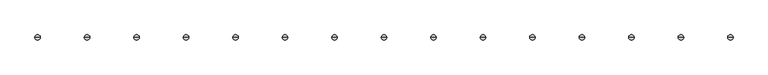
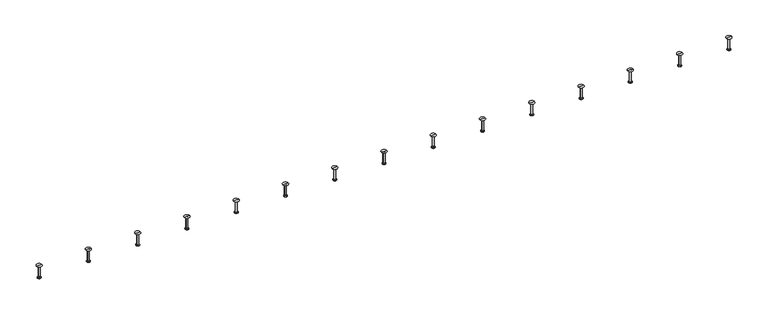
"""IFC4 building model written with IfcOpenShell, lengths in millimetres: fastener geometry, JTA-K JORDAHL® AnchorChannels : JTA-K L=6000 mm."""

from ifc_helpers import new_model, si_unit, frame, origin, place, context, project, spatial, polyline, circle_curve, source, transform, mapped, element, save
from ifc_brep_helpers import plane_surface, cylinder_surface, revolved_surface, advanced_brep


def fastener_3c34351d(model_context):
    return source(origin(), model_context, "Body", "AdvancedBrep", [
        advanced_brep(
        [(3991.6666667, 0.0, -25.0), (3978.1666667, 0.0, -25.0), (4005.1666667, 0.0, -25.0), (3983.1666667, 0.0, -90.0), (3991.6666667, 0.0, -90.0), (4000.1666667, 0.0, -90.0), (3983.1666667, 0.0, -88.0), (4000.1666667, 0.0, -88.0), (3987.1666667, 0.0, -85.6905989), (3996.1666667, 0.0, -85.6905989), (3987.1666667, 0.0, -27.5), (3996.1666667, 0.0, -27.5)],
        [
            (0, 1),
            (1, 2, circle_curve(frame((3991.6666667, 0.0, -25.0), z_axis=(0.0, 0.0, 1.0), x_axis=(1.0, 0.0, 0.0)), 13.5)),
            (2, 0),
            (2, 1, circle_curve(frame((3991.6666667, 0.0, -25.0), z_axis=(0.0, 0.0, 1.0), x_axis=(1.0, 0.0, 0.0)), 13.5)),
            (3, 4),
            (4, 5),
            (5, 3, circle_curve(frame((3991.6666667, 0.0, -90.0), z_axis=(0.0, 0.0, -1.0), x_axis=(1.0, 0.0, 0.0)), 8.5)),
            (3, 5, circle_curve(frame((3991.6666667, 0.0, -90.0), z_axis=(0.0, 0.0, -1.0), x_axis=(1.0, 0.0, 0.0)), 8.5)),
            (6, 3),
            (5, 7),
            (7, 6, circle_curve(frame((3991.6666667, 0.0, -88.0), z_axis=(0.0, 0.0, -1.0), x_axis=(1.0, 0.0, 0.0)), 8.5)),
            (6, 7, circle_curve(frame((3991.6666667, 0.0, -88.0), z_axis=(0.0, 0.0, -1.0), x_axis=(1.0, 0.0, 0.0)), 8.5)),
            (8, 6),
            (7, 9),
            (9, 8, circle_curve(frame((3991.6666667, 0.0, -85.6905989), z_axis=(0.0, 0.0, -1.0), x_axis=(1.0, 0.0, 0.0)), 4.5)),
            (8, 9, circle_curve(frame((3991.6666667, 0.0, -85.6905989), z_axis=(0.0, 0.0, -1.0), x_axis=(1.0, 0.0, 0.0)), 4.5)),
            (10, 8),
            (9, 11),
            (11, 10, circle_curve(frame((3991.6666667, 0.0, -27.5), z_axis=(0.0, 0.0, -1.0), x_axis=(1.0, 0.0, 0.0)), 4.5)),
            (10, 11, circle_curve(frame((3991.6666667, 0.0, -27.5), z_axis=(0.0, 0.0, -1.0), x_axis=(1.0, 0.0, 0.0)), 4.5)),
            (1, 10),
            (11, 2),
        ],
        [
            plane_surface(frame((3991.6666667, 0.0, -25.0), z_axis=(0.0, 0.0, 1.0), x_axis=(1.0, 0.0, 0.0))),
            plane_surface(frame((3991.6666667, 0.0, -90.0), z_axis=(0.0, 0.0, -1.0), x_axis=(1.0, 0.0, 0.0))),
            cylinder_surface(frame((3991.6666667, 0.0, 2279.3150031), z_axis=(0.0, 0.0, 1.0), x_axis=(1.0, 0.0, 0.0)), 8.5),
            revolved_surface(polyline([(4000.1666667, 0.0, -88.0), (3996.1666667, 0.0, -85.6905989)]), (3991.6666667, 0.0, 2279.3150031), (0.0, 0.0, 1.0)),
            cylinder_surface(frame((3991.6666667, 0.0, 2279.3150031), z_axis=(0.0, 0.0, 1.0), x_axis=(1.0, 0.0, 0.0)), 4.5),
            revolved_surface(polyline([(3996.1666667, 0.0, -27.5), (4005.1666667, 0.0, -25.0)]), (3991.6666667, 0.0, 2279.3150031), (0.0, 0.0, 1.0)),
        ],
        [
            (0, [[1, 2, 3]]),
            (0, [[-3, 4, -1]]),
            (1, [[5, 6, 7]]),
            (1, [[-6, -5, 8]]),
            (2, [[9, -7, 10, 11]]),
            (2, [[-10, -8, -9, 12]]),
            (3, [[13, -11, 14, 15]]),
            (3, [[-14, -12, -13, 16]]),
            (4, [[17, -15, 18, 19]]),
            (4, [[-18, -16, -17, 20]]),
            (5, [[21, -19, 22, -2]]),
            (5, [[-22, -20, -21, -4]]),
        ],
    ),
        advanced_brep(
        [(3743.75, 0.0, -25.0), (3730.25, 0.0, -25.0), (3757.25, 0.0, -25.0), (3735.25, 0.0, -90.0), (3743.75, 0.0, -90.0), (3752.25, 0.0, -90.0), (3735.25, 0.0, -88.0), (3752.25, 0.0, -88.0), (3739.25, 0.0, -85.6905989), (3748.25, 0.0, -85.6905989), (3739.25, 0.0, -27.5), (3748.25, 0.0, -27.5)],
        [
            (0, 1),
            (1, 2, circle_curve(frame((3743.75, 0.0, -25.0), z_axis=(0.0, 0.0, 1.0), x_axis=(1.0, 0.0, 0.0)), 13.5)),
            (2, 0),
            (2, 1, circle_curve(frame((3743.75, 0.0, -25.0), z_axis=(0.0, 0.0, 1.0), x_axis=(1.0, 0.0, 0.0)), 13.5)),
            (3, 4),
            (4, 5),
            (5, 3, circle_curve(frame((3743.75, 0.0, -90.0), z_axis=(0.0, 0.0, -1.0), x_axis=(1.0, 0.0, 0.0)), 8.5)),
            (3, 5, circle_curve(frame((3743.75, 0.0, -90.0), z_axis=(0.0, 0.0, -1.0), x_axis=(1.0, 0.0, 0.0)), 8.5)),
            (6, 3),
            (5, 7),
            (7, 6, circle_curve(frame((3743.75, 0.0, -88.0), z_axis=(0.0, 0.0, -1.0), x_axis=(1.0, 0.0, 0.0)), 8.5)),
            (6, 7, circle_curve(frame((3743.75, 0.0, -88.0), z_axis=(0.0, 0.0, -1.0), x_axis=(1.0, 0.0, 0.0)), 8.5)),
            (8, 6),
            (7, 9),
            (9, 8, circle_curve(frame((3743.75, 0.0, -85.6905989), z_axis=(0.0, 0.0, -1.0), x_axis=(1.0, 0.0, 0.0)), 4.5)),
            (8, 9, circle_curve(frame((3743.75, 0.0, -85.6905989), z_axis=(0.0, 0.0, -1.0), x_axis=(1.0, 0.0, 0.0)), 4.5)),
            (10, 8),
            (9, 11),
            (11, 10, circle_curve(frame((3743.75, 0.0, -27.5), z_axis=(0.0, 0.0, -1.0), x_axis=(1.0, 0.0, 0.0)), 4.5)),
            (10, 11, circle_curve(frame((3743.75, 0.0, -27.5), z_axis=(0.0, 0.0, -1.0), x_axis=(1.0, 0.0, 0.0)), 4.5)),
            (1, 10),
            (11, 2),
        ],
        [
            plane_surface(frame((3743.75, 0.0, -25.0), z_axis=(0.0, 0.0, 1.0), x_axis=(1.0, 0.0, 0.0))),
            plane_surface(frame((3743.75, 0.0, -90.0), z_axis=(0.0, 0.0, -1.0), x_axis=(1.0, 0.0, 0.0))),
            cylinder_surface(frame((3743.75, 0.0, 2279.3150031), z_axis=(0.0, 0.0, 1.0), x_axis=(1.0, 0.0, 0.0)), 8.5),
            revolved_surface(polyline([(3752.25, 0.0, -88.0), (3748.25, 0.0, -85.6905989)]), (3743.75, 0.0, 2279.3150031), (0.0, 0.0, 1.0)),
            cylinder_surface(frame((3743.75, 0.0, 2279.3150031), z_axis=(0.0, 0.0, 1.0), x_axis=(1.0, 0.0, 0.0)), 4.5),
            revolved_surface(polyline([(3748.25, 0.0, -27.5), (3757.25, 0.0, -25.0)]), (3743.75, 0.0, 2279.3150031), (0.0, 0.0, 1.0)),
        ],
        [
            (0, [[1, 2, 3]]),
            (0, [[-3, 4, -1]]),
            (1, [[5, 6, 7]]),
            (1, [[-6, -5, 8]]),
            (2, [[9, -7, 10, 11]]),
            (2, [[-10, -8, -9, 12]]),
            (3, [[13, -11, 14, 15]]),
            (3, [[-14, -12, -13, 16]]),
            (4, [[17, -15, 18, 19]]),
            (4, [[-18, -16, -17, 20]]),
            (5, [[21, -19, 22, -2]]),
            (5, [[-22, -20, -21, -4]]),
        ],
    ),
        advanced_brep(
        [(3495.8333333, 0.0, -25.0), (3482.3333333, 0.0, -25.0), (3509.3333333, 0.0, -25.0), (3487.3333333, 0.0, -90.0), (3495.8333333, 0.0, -90.0), (3504.3333333, 0.0, -90.0), (3487.3333333, 0.0, -88.0), (3504.3333333, 0.0, -88.0), (3491.3333333, 0.0, -85.6905989), (3500.3333333, 0.0, -85.6905989), (3491.3333333, 0.0, -27.5), (3500.3333333, 0.0, -27.5)],
        [
            (0, 1),
            (1, 2, circle_curve(frame((3495.8333333, 0.0, -25.0), z_axis=(0.0, 0.0, 1.0), x_axis=(1.0, 0.0, 0.0)), 13.5)),
            (2, 0),
            (2, 1, circle_curve(frame((3495.8333333, 0.0, -25.0), z_axis=(0.0, 0.0, 1.0), x_axis=(1.0, 0.0, 0.0)), 13.5)),
            (3, 4),
            (4, 5),
            (5, 3, circle_curve(frame((3495.8333333, 0.0, -90.0), z_axis=(0.0, 0.0, -1.0), x_axis=(1.0, 0.0, 0.0)), 8.5)),
            (3, 5, circle_curve(frame((3495.8333333, 0.0, -90.0), z_axis=(0.0, 0.0, -1.0), x_axis=(1.0, 0.0, 0.0)), 8.5)),
            (6, 3),
            (5, 7),
            (7, 6, circle_curve(frame((3495.8333333, 0.0, -88.0), z_axis=(0.0, 0.0, -1.0), x_axis=(1.0, 0.0, 0.0)), 8.5)),
            (6, 7, circle_curve(frame((3495.8333333, 0.0, -88.0), z_axis=(0.0, 0.0, -1.0), x_axis=(1.0, 0.0, 0.0)), 8.5)),
            (8, 6),
            (7, 9),
            (9, 8, circle_curve(frame((3495.8333333, 0.0, -85.6905989), z_axis=(0.0, 0.0, -1.0), x_axis=(1.0, 0.0, 0.0)), 4.5)),
            (8, 9, circle_curve(frame((3495.8333333, 0.0, -85.6905989), z_axis=(0.0, 0.0, -1.0), x_axis=(1.0, 0.0, 0.0)), 4.5)),
            (10, 8),
            (9, 11),
            (11, 10, circle_curve(frame((3495.8333333, 0.0, -27.5), z_axis=(0.0, 0.0, -1.0), x_axis=(1.0, 0.0, 0.0)), 4.5)),
            (10, 11, circle_curve(frame((3495.8333333, 0.0, -27.5), z_axis=(0.0, 0.0, -1.0), x_axis=(1.0, 0.0, 0.0)), 4.5)),
            (1, 10),
            (11, 2),
        ],
        [
            plane_surface(frame((3495.8333333, 0.0, -25.0), z_axis=(0.0, 0.0, 1.0), x_axis=(1.0, 0.0, 0.0))),
            plane_surface(frame((3495.8333333, 0.0, -90.0), z_axis=(0.0, 0.0, -1.0), x_axis=(1.0, 0.0, 0.0))),
            cylinder_surface(frame((3495.8333333, 0.0, 2279.3150031), z_axis=(0.0, 0.0, 1.0), x_axis=(1.0, 0.0, 0.0)), 8.5),
            revolved_surface(polyline([(3504.3333333, 0.0, -88.0), (3500.3333333, 0.0, -85.6905989)]), (3495.8333333, 0.0, 2279.3150031), (0.0, 0.0, 1.0)),
            cylinder_surface(frame((3495.8333333, 0.0, 2279.3150031), z_axis=(0.0, 0.0, 1.0), x_axis=(1.0, 0.0, 0.0)), 4.5),
            revolved_surface(polyline([(3500.3333333, 0.0, -27.5), (3509.3333333, 0.0, -25.0)]), (3495.8333333, 0.0, 2279.3150031), (0.0, 0.0, 1.0)),
        ],
        [
            (0, [[1, 2, 3]]),
            (0, [[-3, 4, -1]]),
            (1, [[5, 6, 7]]),
            (1, [[-6, -5, 8]]),
            (2, [[9, -7, 10, 11]]),
            (2, [[-10, -8, -9, 12]]),
            (3, [[13, -11, 14, 15]]),
            (3, [[-14, -12, -13, 16]]),
            (4, [[17, -15, 18, 19]]),
            (4, [[-18, -16, -17, 20]]),
            (5, [[21, -19, 22, -2]]),
            (5, [[-22, -20, -21, -4]]),
        ],
    ),
        advanced_brep(
        [(3247.9166667, 0.0, -25.0), (3234.4166667, 0.0, -25.0), (3261.4166667, 0.0, -25.0), (3239.4166667, 0.0, -90.0), (3247.9166667, 0.0, -90.0), (3256.4166667, 0.0, -90.0), (3239.4166667, 0.0, -88.0), (3256.4166667, 0.0, -88.0), (3243.4166667, 0.0, -85.6905989), (3252.4166667, 0.0, -85.6905989), (3243.4166667, 0.0, -27.5), (3252.4166667, 0.0, -27.5)],
        [
            (0, 1),
            (1, 2, circle_curve(frame((3247.9166667, 0.0, -25.0), z_axis=(0.0, 0.0, 1.0), x_axis=(1.0, 0.0, 0.0)), 13.5)),
            (2, 0),
            (2, 1, circle_curve(frame((3247.9166667, 0.0, -25.0), z_axis=(0.0, 0.0, 1.0), x_axis=(1.0, 0.0, 0.0)), 13.5)),
            (3, 4),
            (4, 5),
            (5, 3, circle_curve(frame((3247.9166667, 0.0, -90.0), z_axis=(0.0, 0.0, -1.0), x_axis=(1.0, 0.0, 0.0)), 8.5)),
            (3, 5, circle_curve(frame((3247.9166667, 0.0, -90.0), z_axis=(0.0, 0.0, -1.0), x_axis=(1.0, 0.0, 0.0)), 8.5)),
            (6, 3),
            (5, 7),
            (7, 6, circle_curve(frame((3247.9166667, 0.0, -88.0), z_axis=(0.0, 0.0, -1.0), x_axis=(1.0, 0.0, 0.0)), 8.5)),
            (6, 7, circle_curve(frame((3247.9166667, 0.0, -88.0), z_axis=(0.0, 0.0, -1.0), x_axis=(1.0, 0.0, 0.0)), 8.5)),
            (8, 6),
            (7, 9),
            (9, 8, circle_curve(frame((3247.9166667, 0.0, -85.6905989), z_axis=(0.0, 0.0, -1.0), x_axis=(1.0, 0.0, 0.0)), 4.5)),
            (8, 9, circle_curve(frame((3247.9166667, 0.0, -85.6905989), z_axis=(0.0, 0.0, -1.0), x_axis=(1.0, 0.0, 0.0)), 4.5)),
            (10, 8),
            (9, 11),
            (11, 10, circle_curve(frame((3247.9166667, 0.0, -27.5), z_axis=(0.0, 0.0, -1.0), x_axis=(1.0, 0.0, 0.0)), 4.5)),
            (10, 11, circle_curve(frame((3247.9166667, 0.0, -27.5), z_axis=(0.0, 0.0, -1.0), x_axis=(1.0, 0.0, 0.0)), 4.5)),
            (1, 10),
            (11, 2),
        ],
        [
            plane_surface(frame((3247.9166667, 0.0, -25.0), z_axis=(0.0, 0.0, 1.0), x_axis=(1.0, 0.0, 0.0))),
            plane_surface(frame((3247.9166667, 0.0, -90.0), z_axis=(0.0, 0.0, -1.0), x_axis=(1.0, 0.0, 0.0))),
            cylinder_surface(frame((3247.9166667, 0.0, 2279.3150031), z_axis=(0.0, 0.0, 1.0), x_axis=(1.0, 0.0, 0.0)), 8.5),
            revolved_surface(polyline([(3256.4166667, 0.0, -88.0), (3252.4166667, 0.0, -85.6905989)]), (3247.9166667, 0.0, 2279.3150031), (0.0, 0.0, 1.0)),
            cylinder_surface(frame((3247.9166667, 0.0, 2279.3150031), z_axis=(0.0, 0.0, 1.0), x_axis=(1.0, 0.0, 0.0)), 4.5),
            revolved_surface(polyline([(3252.4166667, 0.0, -27.5), (3261.4166667, 0.0, -25.0)]), (3247.9166667, 0.0, 2279.3150031), (0.0, 0.0, 1.0)),
        ],
        [
            (0, [[1, 2, 3]]),
            (0, [[-3, 4, -1]]),
            (1, [[5, 6, 7]]),
            (1, [[-6, -5, 8]]),
            (2, [[9, -7, 10, 11]]),
            (2, [[-10, -8, -9, 12]]),
            (3, [[13, -11, 14, 15]]),
            (3, [[-14, -12, -13, 16]]),
            (4, [[17, -15, 18, 19]]),
            (4, [[-18, -16, -17, 20]]),
            (5, [[21, -19, 22, -2]]),
            (5, [[-22, -20, -21, -4]]),
        ],
    ),
        advanced_brep(
        [(3000.0, 0.0, -25.0), (2986.5, 0.0, -25.0), (3013.5, 0.0, -25.0), (2991.5, 0.0, -90.0), (3000.0, 0.0, -90.0), (3008.5, 0.0, -90.0), (2991.5, 0.0, -88.0), (3008.5, 0.0, -88.0), (2995.5, 0.0, -85.6905989), (3004.5, 0.0, -85.6905989), (2995.5, 0.0, -27.5), (3004.5, 0.0, -27.5)],
        [
            (0, 1),
            (1, 2, circle_curve(frame((3000.0, 0.0, -25.0), z_axis=(0.0, 0.0, 1.0), x_axis=(1.0, 0.0, 0.0)), 13.5)),
            (2, 0),
            (2, 1, circle_curve(frame((3000.0, 0.0, -25.0), z_axis=(0.0, 0.0, 1.0), x_axis=(1.0, 0.0, 0.0)), 13.5)),
            (3, 4),
            (4, 5),
            (5, 3, circle_curve(frame((3000.0, 0.0, -90.0), z_axis=(0.0, 0.0, -1.0), x_axis=(1.0, 0.0, 0.0)), 8.5)),
            (3, 5, circle_curve(frame((3000.0, 0.0, -90.0), z_axis=(0.0, 0.0, -1.0), x_axis=(1.0, 0.0, 0.0)), 8.5)),
            (6, 3),
            (5, 7),
            (7, 6, circle_curve(frame((3000.0, 0.0, -88.0), z_axis=(0.0, 0.0, -1.0), x_axis=(1.0, 0.0, 0.0)), 8.5)),
            (6, 7, circle_curve(frame((3000.0, 0.0, -88.0), z_axis=(0.0, 0.0, -1.0), x_axis=(1.0, 0.0, 0.0)), 8.5)),
            (8, 6),
            (7, 9),
            (9, 8, circle_curve(frame((3000.0, 0.0, -85.6905989), z_axis=(0.0, 0.0, -1.0), x_axis=(1.0, 0.0, 0.0)), 4.5)),
            (8, 9, circle_curve(frame((3000.0, 0.0, -85.6905989), z_axis=(0.0, 0.0, -1.0), x_axis=(1.0, 0.0, 0.0)), 4.5)),
            (10, 8),
            (9, 11),
            (11, 10, circle_curve(frame((3000.0, 0.0, -27.5), z_axis=(0.0, 0.0, -1.0), x_axis=(1.0, 0.0, 0.0)), 4.5)),
            (10, 11, circle_curve(frame((3000.0, 0.0, -27.5), z_axis=(0.0, 0.0, -1.0), x_axis=(1.0, 0.0, 0.0)), 4.5)),
            (1, 10),
            (11, 2),
        ],
        [
            plane_surface(frame((3000.0, 0.0, -25.0), z_axis=(0.0, 0.0, 1.0), x_axis=(1.0, 0.0, 0.0))),
            plane_surface(frame((3000.0, 0.0, -90.0), z_axis=(0.0, 0.0, -1.0), x_axis=(1.0, 0.0, 0.0))),
            cylinder_surface(frame((3000.0, 0.0, 2279.3150031), z_axis=(0.0, 0.0, 1.0), x_axis=(1.0, 0.0, 0.0)), 8.5),
            revolved_surface(polyline([(3008.5, 0.0, -88.0), (3004.5, 0.0, -85.6905989)]), (3000.0, 0.0, 2279.3150031), (0.0, 0.0, 1.0)),
            cylinder_surface(frame((3000.0, 0.0, 2279.3150031), z_axis=(0.0, 0.0, 1.0), x_axis=(1.0, 0.0, 0.0)), 4.5),
            revolved_surface(polyline([(3004.5, 0.0, -27.5), (3013.5, 0.0, -25.0)]), (3000.0, 0.0, 2279.3150031), (0.0, 0.0, 1.0)),
        ],
        [
            (0, [[1, 2, 3]]),
            (0, [[-3, 4, -1]]),
            (1, [[5, 6, 7]]),
            (1, [[-6, -5, 8]]),
            (2, [[9, -7, 10, 11]]),
            (2, [[-10, -8, -9, 12]]),
            (3, [[13, -11, 14, 15]]),
            (3, [[-14, -12, -13, 16]]),
            (4, [[17, -15, 18, 19]]),
            (4, [[-18, -16, -17, 20]]),
            (5, [[21, -19, 22, -2]]),
            (5, [[-22, -20, -21, -4]]),
        ],
    ),
        advanced_brep(
        [(2752.0833333, 0.0, -25.0), (2738.5833333, 0.0, -25.0), (2765.5833333, 0.0, -25.0), (2743.5833333, 0.0, -90.0), (2752.0833333, 0.0, -90.0), (2760.5833333, 0.0, -90.0), (2743.5833333, 0.0, -88.0), (2760.5833333, 0.0, -88.0), (2747.5833333, 0.0, -85.6905989), (2756.5833333, 0.0, -85.6905989), (2747.5833333, 0.0, -27.5), (2756.5833333, 0.0, -27.5)],
        [
            (0, 1),
            (1, 2, circle_curve(frame((2752.0833333, 0.0, -25.0), z_axis=(0.0, 0.0, 1.0), x_axis=(1.0, 0.0, 0.0)), 13.5)),
            (2, 0),
            (2, 1, circle_curve(frame((2752.0833333, 0.0, -25.0), z_axis=(0.0, 0.0, 1.0), x_axis=(1.0, 0.0, 0.0)), 13.5)),
            (3, 4),
            (4, 5),
            (5, 3, circle_curve(frame((2752.0833333, 0.0, -90.0), z_axis=(0.0, 0.0, -1.0), x_axis=(1.0, 0.0, 0.0)), 8.5)),
            (3, 5, circle_curve(frame((2752.0833333, 0.0, -90.0), z_axis=(0.0, 0.0, -1.0), x_axis=(1.0, 0.0, 0.0)), 8.5)),
            (6, 3),
            (5, 7),
            (7, 6, circle_curve(frame((2752.0833333, 0.0, -88.0), z_axis=(0.0, 0.0, -1.0), x_axis=(1.0, 0.0, 0.0)), 8.5)),
            (6, 7, circle_curve(frame((2752.0833333, 0.0, -88.0), z_axis=(0.0, 0.0, -1.0), x_axis=(1.0, 0.0, 0.0)), 8.5)),
            (8, 6),
            (7, 9),
            (9, 8, circle_curve(frame((2752.0833333, 0.0, -85.6905989), z_axis=(0.0, 0.0, -1.0), x_axis=(1.0, 0.0, 0.0)), 4.5)),
            (8, 9, circle_curve(frame((2752.0833333, 0.0, -85.6905989), z_axis=(0.0, 0.0, -1.0), x_axis=(1.0, 0.0, 0.0)), 4.5)),
            (10, 8),
            (9, 11),
            (11, 10, circle_curve(frame((2752.0833333, 0.0, -27.5), z_axis=(0.0, 0.0, -1.0), x_axis=(1.0, 0.0, 0.0)), 4.5)),
            (10, 11, circle_curve(frame((2752.0833333, 0.0, -27.5), z_axis=(0.0, 0.0, -1.0), x_axis=(1.0, 0.0, 0.0)), 4.5)),
            (1, 10),
            (11, 2),
        ],
        [
            plane_surface(frame((2752.0833333, 0.0, -25.0), z_axis=(0.0, 0.0, 1.0), x_axis=(1.0, 0.0, 0.0))),
            plane_surface(frame((2752.0833333, 0.0, -90.0), z_axis=(0.0, 0.0, -1.0), x_axis=(1.0, 0.0, 0.0))),
            cylinder_surface(frame((2752.0833333, 0.0, 2279.3150031), z_axis=(0.0, 0.0, 1.0), x_axis=(1.0, 0.0, 0.0)), 8.5),
            revolved_surface(polyline([(2760.5833333, 0.0, -88.0), (2756.5833333, 0.0, -85.6905989)]), (2752.0833333, 0.0, 2279.3150031), (0.0, 0.0, 1.0)),
            cylinder_surface(frame((2752.0833333, 0.0, 2279.3150031), z_axis=(0.0, 0.0, 1.0), x_axis=(1.0, 0.0, 0.0)), 4.5),
            revolved_surface(polyline([(2756.5833333, 0.0, -27.5), (2765.5833333, 0.0, -25.0)]), (2752.0833333, 0.0, 2279.3150031), (0.0, 0.0, 1.0)),
        ],
        [
            (0, [[1, 2, 3]]),
            (0, [[-3, 4, -1]]),
            (1, [[5, 6, 7]]),
            (1, [[-6, -5, 8]]),
            (2, [[9, -7, 10, 11]]),
            (2, [[-10, -8, -9, 12]]),
            (3, [[13, -11, 14, 15]]),
            (3, [[-14, -12, -13, 16]]),
            (4, [[17, -15, 18, 19]]),
            (4, [[-18, -16, -17, 20]]),
            (5, [[21, -19, 22, -2]]),
            (5, [[-22, -20, -21, -4]]),
        ],
    ),
        advanced_brep(
        [(2504.1666667, 0.0, -25.0), (2490.6666667, 0.0, -25.0), (2517.6666667, 0.0, -25.0), (2495.6666667, 0.0, -90.0), (2504.1666667, 0.0, -90.0), (2512.6666667, 0.0, -90.0), (2495.6666667, 0.0, -88.0), (2512.6666667, 0.0, -88.0), (2499.6666667, 0.0, -85.6905989), (2508.6666667, 0.0, -85.6905989), (2499.6666667, 0.0, -27.5), (2508.6666667, 0.0, -27.5)],
        [
            (0, 1),
            (1, 2, circle_curve(frame((2504.1666667, 0.0, -25.0), z_axis=(0.0, 0.0, 1.0), x_axis=(1.0, 0.0, 0.0)), 13.5)),
            (2, 0),
            (2, 1, circle_curve(frame((2504.1666667, 0.0, -25.0), z_axis=(0.0, 0.0, 1.0), x_axis=(1.0, 0.0, 0.0)), 13.5)),
            (3, 4),
            (4, 5),
            (5, 3, circle_curve(frame((2504.1666667, 0.0, -90.0), z_axis=(0.0, 0.0, -1.0), x_axis=(1.0, 0.0, 0.0)), 8.5)),
            (3, 5, circle_curve(frame((2504.1666667, 0.0, -90.0), z_axis=(0.0, 0.0, -1.0), x_axis=(1.0, 0.0, 0.0)), 8.5)),
            (6, 3),
            (5, 7),
            (7, 6, circle_curve(frame((2504.1666667, 0.0, -88.0), z_axis=(0.0, 0.0, -1.0), x_axis=(1.0, 0.0, 0.0)), 8.5)),
            (6, 7, circle_curve(frame((2504.1666667, 0.0, -88.0), z_axis=(0.0, 0.0, -1.0), x_axis=(1.0, 0.0, 0.0)), 8.5)),
            (8, 6),
            (7, 9),
            (9, 8, circle_curve(frame((2504.1666667, 0.0, -85.6905989), z_axis=(0.0, 0.0, -1.0), x_axis=(1.0, 0.0, 0.0)), 4.5)),
            (8, 9, circle_curve(frame((2504.1666667, 0.0, -85.6905989), z_axis=(0.0, 0.0, -1.0), x_axis=(1.0, 0.0, 0.0)), 4.5)),
            (10, 8),
            (9, 11),
            (11, 10, circle_curve(frame((2504.1666667, 0.0, -27.5), z_axis=(0.0, 0.0, -1.0), x_axis=(1.0, 0.0, 0.0)), 4.5)),
            (10, 11, circle_curve(frame((2504.1666667, 0.0, -27.5), z_axis=(0.0, 0.0, -1.0), x_axis=(1.0, 0.0, 0.0)), 4.5)),
            (1, 10),
            (11, 2),
        ],
        [
            plane_surface(frame((2504.1666667, 0.0, -25.0), z_axis=(0.0, 0.0, 1.0), x_axis=(1.0, 0.0, 0.0))),
            plane_surface(frame((2504.1666667, 0.0, -90.0), z_axis=(0.0, 0.0, -1.0), x_axis=(1.0, 0.0, 0.0))),
            cylinder_surface(frame((2504.1666667, 0.0, 2279.3150031), z_axis=(0.0, 0.0, 1.0), x_axis=(1.0, 0.0, 0.0)), 8.5),
            revolved_surface(polyline([(2512.6666667, 0.0, -88.0), (2508.6666667, 0.0, -85.6905989)]), (2504.1666667, 0.0, 2279.3150031), (0.0, 0.0, 1.0)),
            cylinder_surface(frame((2504.1666667, 0.0, 2279.3150031), z_axis=(0.0, 0.0, 1.0), x_axis=(1.0, 0.0, 0.0)), 4.5),
            revolved_surface(polyline([(2508.6666667, 0.0, -27.5), (2517.6666667, 0.0, -25.0)]), (2504.1666667, 0.0, 2279.3150031), (0.0, 0.0, 1.0)),
        ],
        [
            (0, [[1, 2, 3]]),
            (0, [[-3, 4, -1]]),
            (1, [[5, 6, 7]]),
            (1, [[-6, -5, 8]]),
            (2, [[9, -7, 10, 11]]),
            (2, [[-10, -8, -9, 12]]),
            (3, [[13, -11, 14, 15]]),
            (3, [[-14, -12, -13, 16]]),
            (4, [[17, -15, 18, 19]]),
            (4, [[-18, -16, -17, 20]]),
            (5, [[21, -19, 22, -2]]),
            (5, [[-22, -20, -21, -4]]),
        ],
    ),
        advanced_brep(
        [(2256.25, 0.0, -25.0), (2242.75, 0.0, -25.0), (2269.75, 0.0, -25.0), (2247.75, 0.0, -90.0), (2256.25, 0.0, -90.0), (2264.75, 0.0, -90.0), (2247.75, 0.0, -88.0), (2264.75, 0.0, -88.0), (2251.75, 0.0, -85.6905989), (2260.75, 0.0, -85.6905989), (2251.75, 0.0, -27.5), (2260.75, 0.0, -27.5)],
        [
            (0, 1),
            (1, 2, circle_curve(frame((2256.25, 0.0, -25.0), z_axis=(0.0, 0.0, 1.0), x_axis=(1.0, 0.0, 0.0)), 13.5)),
            (2, 0),
            (2, 1, circle_curve(frame((2256.25, 0.0, -25.0), z_axis=(0.0, 0.0, 1.0), x_axis=(1.0, 0.0, 0.0)), 13.5)),
            (3, 4),
            (4, 5),
            (5, 3, circle_curve(frame((2256.25, 0.0, -90.0), z_axis=(0.0, 0.0, -1.0), x_axis=(1.0, 0.0, 0.0)), 8.5)),
            (3, 5, circle_curve(frame((2256.25, 0.0, -90.0), z_axis=(0.0, 0.0, -1.0), x_axis=(1.0, 0.0, 0.0)), 8.5)),
            (6, 3),
            (5, 7),
            (7, 6, circle_curve(frame((2256.25, 0.0, -88.0), z_axis=(0.0, 0.0, -1.0), x_axis=(1.0, 0.0, 0.0)), 8.5)),
            (6, 7, circle_curve(frame((2256.25, 0.0, -88.0), z_axis=(0.0, 0.0, -1.0), x_axis=(1.0, 0.0, 0.0)), 8.5)),
            (8, 6),
            (7, 9),
            (9, 8, circle_curve(frame((2256.25, 0.0, -85.6905989), z_axis=(0.0, 0.0, -1.0), x_axis=(1.0, 0.0, 0.0)), 4.5)),
            (8, 9, circle_curve(frame((2256.25, 0.0, -85.6905989), z_axis=(0.0, 0.0, -1.0), x_axis=(1.0, 0.0, 0.0)), 4.5)),
            (10, 8),
            (9, 11),
            (11, 10, circle_curve(frame((2256.25, 0.0, -27.5), z_axis=(0.0, 0.0, -1.0), x_axis=(1.0, 0.0, 0.0)), 4.5)),
            (10, 11, circle_curve(frame((2256.25, 0.0, -27.5), z_axis=(0.0, 0.0, -1.0), x_axis=(1.0, 0.0, 0.0)), 4.5)),
            (1, 10),
            (11, 2),
        ],
        [
            plane_surface(frame((2256.25, 0.0, -25.0), z_axis=(0.0, 0.0, 1.0), x_axis=(1.0, 0.0, 0.0))),
            plane_surface(frame((2256.25, 0.0, -90.0), z_axis=(0.0, 0.0, -1.0), x_axis=(1.0, 0.0, 0.0))),
            cylinder_surface(frame((2256.25, 0.0, 2279.3150031), z_axis=(0.0, 0.0, 1.0), x_axis=(1.0, 0.0, 0.0)), 8.5),
            revolved_surface(polyline([(2264.75, 0.0, -88.0), (2260.75, 0.0, -85.6905989)]), (2256.25, 0.0, 2279.3150031), (0.0, 0.0, 1.0)),
            cylinder_surface(frame((2256.25, 0.0, 2279.3150031), z_axis=(0.0, 0.0, 1.0), x_axis=(1.0, 0.0, 0.0)), 4.5),
            revolved_surface(polyline([(2260.75, 0.0, -27.5), (2269.75, 0.0, -25.0)]), (2256.25, 0.0, 2279.3150031), (0.0, 0.0, 1.0)),
        ],
        [
            (0, [[1, 2, 3]]),
            (0, [[-3, 4, -1]]),
            (1, [[5, 6, 7]]),
            (1, [[-6, -5, 8]]),
            (2, [[9, -7, 10, 11]]),
            (2, [[-10, -8, -9, 12]]),
            (3, [[13, -11, 14, 15]]),
            (3, [[-14, -12, -13, 16]]),
            (4, [[17, -15, 18, 19]]),
            (4, [[-18, -16, -17, 20]]),
            (5, [[21, -19, 22, -2]]),
            (5, [[-22, -20, -21, -4]]),
        ],
    ),
        advanced_brep(
        [(2008.3333333, 0.0, -25.0), (1994.8333333, 0.0, -25.0), (2021.8333333, 0.0, -25.0), (1999.8333333, 0.0, -90.0), (2008.3333333, 0.0, -90.0), (2016.8333333, 0.0, -90.0), (1999.8333333, 0.0, -88.0), (2016.8333333, 0.0, -88.0), (2003.8333333, 0.0, -85.6905989), (2012.8333333, 0.0, -85.6905989), (2003.8333333, 0.0, -27.5), (2012.8333333, 0.0, -27.5)],
        [
            (0, 1),
            (1, 2, circle_curve(frame((2008.3333333, 0.0, -25.0), z_axis=(0.0, 0.0, 1.0), x_axis=(1.0, 0.0, 0.0)), 13.5)),
            (2, 0),
            (2, 1, circle_curve(frame((2008.3333333, 0.0, -25.0), z_axis=(0.0, 0.0, 1.0), x_axis=(1.0, 0.0, 0.0)), 13.5)),
            (3, 4),
            (4, 5),
            (5, 3, circle_curve(frame((2008.3333333, 0.0, -90.0), z_axis=(0.0, 0.0, -1.0), x_axis=(1.0, 0.0, 0.0)), 8.5)),
            (3, 5, circle_curve(frame((2008.3333333, 0.0, -90.0), z_axis=(0.0, 0.0, -1.0), x_axis=(1.0, 0.0, 0.0)), 8.5)),
            (6, 3),
            (5, 7),
            (7, 6, circle_curve(frame((2008.3333333, 0.0, -88.0), z_axis=(0.0, 0.0, -1.0), x_axis=(1.0, 0.0, 0.0)), 8.5)),
            (6, 7, circle_curve(frame((2008.3333333, 0.0, -88.0), z_axis=(0.0, 0.0, -1.0), x_axis=(1.0, 0.0, 0.0)), 8.5)),
            (8, 6),
            (7, 9),
            (9, 8, circle_curve(frame((2008.3333333, 0.0, -85.6905989), z_axis=(0.0, 0.0, -1.0), x_axis=(1.0, 0.0, 0.0)), 4.5)),
            (8, 9, circle_curve(frame((2008.3333333, 0.0, -85.6905989), z_axis=(0.0, 0.0, -1.0), x_axis=(1.0, 0.0, 0.0)), 4.5)),
            (10, 8),
            (9, 11),
            (11, 10, circle_curve(frame((2008.3333333, 0.0, -27.5), z_axis=(0.0, 0.0, -1.0), x_axis=(1.0, 0.0, 0.0)), 4.5)),
            (10, 11, circle_curve(frame((2008.3333333, 0.0, -27.5), z_axis=(0.0, 0.0, -1.0), x_axis=(1.0, 0.0, 0.0)), 4.5)),
            (1, 10),
            (11, 2),
        ],
        [
            plane_surface(frame((2008.3333333, 0.0, -25.0), z_axis=(0.0, 0.0, 1.0), x_axis=(1.0, 0.0, 0.0))),
            plane_surface(frame((2008.3333333, 0.0, -90.0), z_axis=(0.0, 0.0, -1.0), x_axis=(1.0, 0.0, 0.0))),
            cylinder_surface(frame((2008.3333333, 0.0, 2279.3150031), z_axis=(0.0, 0.0, 1.0), x_axis=(1.0, 0.0, 0.0)), 8.5),
            revolved_surface(polyline([(2016.8333333, 0.0, -88.0), (2012.8333333, 0.0, -85.6905989)]), (2008.3333333, 0.0, 2279.3150031), (0.0, 0.0, 1.0)),
            cylinder_surface(frame((2008.3333333, 0.0, 2279.3150031), z_axis=(0.0, 0.0, 1.0), x_axis=(1.0, 0.0, 0.0)), 4.5),
            revolved_surface(polyline([(2012.8333333, 0.0, -27.5), (2021.8333333, 0.0, -25.0)]), (2008.3333333, 0.0, 2279.3150031), (0.0, 0.0, 1.0)),
        ],
        [
            (0, [[1, 2, 3]]),
            (0, [[-3, 4, -1]]),
            (1, [[5, 6, 7]]),
            (1, [[-6, -5, 8]]),
            (2, [[9, -7, 10, 11]]),
            (2, [[-10, -8, -9, 12]]),
            (3, [[13, -11, 14, 15]]),
            (3, [[-14, -12, -13, 16]]),
            (4, [[17, -15, 18, 19]]),
            (4, [[-18, -16, -17, 20]]),
            (5, [[21, -19, 22, -2]]),
            (5, [[-22, -20, -21, -4]]),
        ],
    ),
        advanced_brep(
        [(1760.4166667, 0.0, -25.0), (1746.9166667, 0.0, -25.0), (1773.9166667, 0.0, -25.0), (1751.9166667, 0.0, -90.0), (1760.4166667, 0.0, -90.0), (1768.9166667, 0.0, -90.0), (1751.9166667, 0.0, -88.0), (1768.9166667, 0.0, -88.0), (1755.9166667, 0.0, -85.6905989), (1764.9166667, 0.0, -85.6905989), (1755.9166667, 0.0, -27.5), (1764.9166667, 0.0, -27.5)],
        [
            (0, 1),
            (1, 2, circle_curve(frame((1760.4166667, 0.0, -25.0), z_axis=(0.0, 0.0, 1.0), x_axis=(1.0, 0.0, 0.0)), 13.5)),
            (2, 0),
            (2, 1, circle_curve(frame((1760.4166667, 0.0, -25.0), z_axis=(0.0, 0.0, 1.0), x_axis=(1.0, 0.0, 0.0)), 13.5)),
            (3, 4),
            (4, 5),
            (5, 3, circle_curve(frame((1760.4166667, 0.0, -90.0), z_axis=(0.0, 0.0, -1.0), x_axis=(1.0, 0.0, 0.0)), 8.5)),
            (3, 5, circle_curve(frame((1760.4166667, 0.0, -90.0), z_axis=(0.0, 0.0, -1.0), x_axis=(1.0, 0.0, 0.0)), 8.5)),
            (6, 3),
            (5, 7),
            (7, 6, circle_curve(frame((1760.4166667, 0.0, -88.0), z_axis=(0.0, 0.0, -1.0), x_axis=(1.0, 0.0, 0.0)), 8.5)),
            (6, 7, circle_curve(frame((1760.4166667, 0.0, -88.0), z_axis=(0.0, 0.0, -1.0), x_axis=(1.0, 0.0, 0.0)), 8.5)),
            (8, 6),
            (7, 9),
            (9, 8, circle_curve(frame((1760.4166667, 0.0, -85.6905989), z_axis=(0.0, 0.0, -1.0), x_axis=(1.0, 0.0, 0.0)), 4.5)),
            (8, 9, circle_curve(frame((1760.4166667, 0.0, -85.6905989), z_axis=(0.0, 0.0, -1.0), x_axis=(1.0, 0.0, 0.0)), 4.5)),
            (10, 8),
            (9, 11),
            (11, 10, circle_curve(frame((1760.4166667, 0.0, -27.5), z_axis=(0.0, 0.0, -1.0), x_axis=(1.0, 0.0, 0.0)), 4.5)),
            (10, 11, circle_curve(frame((1760.4166667, 0.0, -27.5), z_axis=(0.0, 0.0, -1.0), x_axis=(1.0, 0.0, 0.0)), 4.5)),
            (1, 10),
            (11, 2),
        ],
        [
            plane_surface(frame((1760.4166667, 0.0, -25.0), z_axis=(0.0, 0.0, 1.0), x_axis=(1.0, 0.0, 0.0))),
            plane_surface(frame((1760.4166667, 0.0, -90.0), z_axis=(0.0, 0.0, -1.0), x_axis=(1.0, 0.0, 0.0))),
            cylinder_surface(frame((1760.4166667, 0.0, 2279.3150031), z_axis=(0.0, 0.0, 1.0), x_axis=(1.0, 0.0, 0.0)), 8.5),
            revolved_surface(polyline([(1768.9166667, 0.0, -88.0), (1764.9166667, 0.0, -85.6905989)]), (1760.4166667, 0.0, 2279.3150031), (0.0, 0.0, 1.0)),
            cylinder_surface(frame((1760.4166667, 0.0, 2279.3150031), z_axis=(0.0, 0.0, 1.0), x_axis=(1.0, 0.0, 0.0)), 4.5),
            revolved_surface(polyline([(1764.9166667, 0.0, -27.5), (1773.9166667, 0.0, -25.0)]), (1760.4166667, 0.0, 2279.3150031), (0.0, 0.0, 1.0)),
        ],
        [
            (0, [[1, 2, 3]]),
            (0, [[-3, 4, -1]]),
            (1, [[5, 6, 7]]),
            (1, [[-6, -5, 8]]),
            (2, [[9, -7, 10, 11]]),
            (2, [[-10, -8, -9, 12]]),
            (3, [[13, -11, 14, 15]]),
            (3, [[-14, -12, -13, 16]]),
            (4, [[17, -15, 18, 19]]),
            (4, [[-18, -16, -17, 20]]),
            (5, [[21, -19, 22, -2]]),
            (5, [[-22, -20, -21, -4]]),
        ],
    ),
        advanced_brep(
        [(1512.5, 0.0, -25.0), (1499.0, 0.0, -25.0), (1526.0, 0.0, -25.0), (1504.0, 0.0, -90.0), (1512.5, 0.0, -90.0), (1521.0, 0.0, -90.0), (1504.0, 0.0, -88.0), (1521.0, 0.0, -88.0), (1508.0, 0.0, -85.6905989), (1517.0, 0.0, -85.6905989), (1508.0, 0.0, -27.5), (1517.0, 0.0, -27.5)],
        [
            (0, 1),
            (1, 2, circle_curve(frame((1512.5, 0.0, -25.0), z_axis=(0.0, 0.0, 1.0), x_axis=(1.0, 0.0, 0.0)), 13.5)),
            (2, 0),
            (2, 1, circle_curve(frame((1512.5, 0.0, -25.0), z_axis=(0.0, 0.0, 1.0), x_axis=(1.0, 0.0, 0.0)), 13.5)),
            (3, 4),
            (4, 5),
            (5, 3, circle_curve(frame((1512.5, 0.0, -90.0), z_axis=(0.0, 0.0, -1.0), x_axis=(1.0, 0.0, 0.0)), 8.5)),
            (3, 5, circle_curve(frame((1512.5, 0.0, -90.0), z_axis=(0.0, 0.0, -1.0), x_axis=(1.0, 0.0, 0.0)), 8.5)),
            (6, 3),
            (5, 7),
            (7, 6, circle_curve(frame((1512.5, 0.0, -88.0), z_axis=(0.0, 0.0, -1.0), x_axis=(1.0, 0.0, 0.0)), 8.5)),
            (6, 7, circle_curve(frame((1512.5, 0.0, -88.0), z_axis=(0.0, 0.0, -1.0), x_axis=(1.0, 0.0, 0.0)), 8.5)),
            (8, 6),
            (7, 9),
            (9, 8, circle_curve(frame((1512.5, 0.0, -85.6905989), z_axis=(0.0, 0.0, -1.0), x_axis=(1.0, 0.0, 0.0)), 4.5)),
            (8, 9, circle_curve(frame((1512.5, 0.0, -85.6905989), z_axis=(0.0, 0.0, -1.0), x_axis=(1.0, 0.0, 0.0)), 4.5)),
            (10, 8),
            (9, 11),
            (11, 10, circle_curve(frame((1512.5, 0.0, -27.5), z_axis=(0.0, 0.0, -1.0), x_axis=(1.0, 0.0, 0.0)), 4.5)),
            (10, 11, circle_curve(frame((1512.5, 0.0, -27.5), z_axis=(0.0, 0.0, -1.0), x_axis=(1.0, 0.0, 0.0)), 4.5)),
            (1, 10),
            (11, 2),
        ],
        [
            plane_surface(frame((1512.5, 0.0, -25.0), z_axis=(0.0, 0.0, 1.0), x_axis=(1.0, 0.0, 0.0))),
            plane_surface(frame((1512.5, 0.0, -90.0), z_axis=(0.0, 0.0, -1.0), x_axis=(1.0, 0.0, 0.0))),
            cylinder_surface(frame((1512.5, 0.0, 2279.3150031), z_axis=(0.0, 0.0, 1.0), x_axis=(1.0, 0.0, 0.0)), 8.5),
            revolved_surface(polyline([(1521.0, 0.0, -88.0), (1517.0, 0.0, -85.6905989)]), (1512.5, 0.0, 2279.3150031), (0.0, 0.0, 1.0)),
            cylinder_surface(frame((1512.5, 0.0, 2279.3150031), z_axis=(0.0, 0.0, 1.0), x_axis=(1.0, 0.0, 0.0)), 4.5),
            revolved_surface(polyline([(1517.0, 0.0, -27.5), (1526.0, 0.0, -25.0)]), (1512.5, 0.0, 2279.3150031), (0.0, 0.0, 1.0)),
        ],
        [
            (0, [[1, 2, 3]]),
            (0, [[-3, 4, -1]]),
            (1, [[5, 6, 7]]),
            (1, [[-6, -5, 8]]),
            (2, [[9, -7, 10, 11]]),
            (2, [[-10, -8, -9, 12]]),
            (3, [[13, -11, 14, 15]]),
            (3, [[-14, -12, -13, 16]]),
            (4, [[17, -15, 18, 19]]),
            (4, [[-18, -16, -17, 20]]),
            (5, [[21, -19, 22, -2]]),
            (5, [[-22, -20, -21, -4]]),
        ],
    ),
        advanced_brep(
        [(1264.5833333, 0.0, -25.0), (1251.0833333, 0.0, -25.0), (1278.0833333, 0.0, -25.0), (1256.0833333, 0.0, -90.0), (1264.5833333, 0.0, -90.0), (1273.0833333, 0.0, -90.0), (1256.0833333, 0.0, -88.0), (1273.0833333, 0.0, -88.0), (1260.0833333, 0.0, -85.6905989), (1269.0833333, 0.0, -85.6905989), (1260.0833333, 0.0, -27.5), (1269.0833333, 0.0, -27.5)],
        [
            (0, 1),
            (1, 2, circle_curve(frame((1264.5833333, 0.0, -25.0), z_axis=(0.0, 0.0, 1.0), x_axis=(1.0, 0.0, 0.0)), 13.5)),
            (2, 0),
            (2, 1, circle_curve(frame((1264.5833333, 0.0, -25.0), z_axis=(0.0, 0.0, 1.0), x_axis=(1.0, 0.0, 0.0)), 13.5)),
            (3, 4),
            (4, 5),
            (5, 3, circle_curve(frame((1264.5833333, 0.0, -90.0), z_axis=(0.0, 0.0, -1.0), x_axis=(1.0, 0.0, 0.0)), 8.5)),
            (3, 5, circle_curve(frame((1264.5833333, 0.0, -90.0), z_axis=(0.0, 0.0, -1.0), x_axis=(1.0, 0.0, 0.0)), 8.5)),
            (6, 3),
            (5, 7),
            (7, 6, circle_curve(frame((1264.5833333, 0.0, -88.0), z_axis=(0.0, 0.0, -1.0), x_axis=(1.0, 0.0, 0.0)), 8.5)),
            (6, 7, circle_curve(frame((1264.5833333, 0.0, -88.0), z_axis=(0.0, 0.0, -1.0), x_axis=(1.0, 0.0, 0.0)), 8.5)),
            (8, 6),
            (7, 9),
            (9, 8, circle_curve(frame((1264.5833333, 0.0, -85.6905989), z_axis=(0.0, 0.0, -1.0), x_axis=(1.0, 0.0, 0.0)), 4.5)),
            (8, 9, circle_curve(frame((1264.5833333, 0.0, -85.6905989), z_axis=(0.0, 0.0, -1.0), x_axis=(1.0, 0.0, 0.0)), 4.5)),
            (10, 8),
            (9, 11),
            (11, 10, circle_curve(frame((1264.5833333, 0.0, -27.5), z_axis=(0.0, 0.0, -1.0), x_axis=(1.0, 0.0, 0.0)), 4.5)),
            (10, 11, circle_curve(frame((1264.5833333, 0.0, -27.5), z_axis=(0.0, 0.0, -1.0), x_axis=(1.0, 0.0, 0.0)), 4.5)),
            (1, 10),
            (11, 2),
        ],
        [
            plane_surface(frame((1264.5833333, 0.0, -25.0), z_axis=(0.0, 0.0, 1.0), x_axis=(1.0, 0.0, 0.0))),
            plane_surface(frame((1264.5833333, 0.0, -90.0), z_axis=(0.0, 0.0, -1.0), x_axis=(1.0, 0.0, 0.0))),
            cylinder_surface(frame((1264.5833333, 0.0, 2279.3150031), z_axis=(0.0, 0.0, 1.0), x_axis=(1.0, 0.0, 0.0)), 8.5),
            revolved_surface(polyline([(1273.0833333, 0.0, -88.0), (1269.0833333, 0.0, -85.6905989)]), (1264.5833333, 0.0, 2279.3150031), (0.0, 0.0, 1.0)),
            cylinder_surface(frame((1264.5833333, 0.0, 2279.3150031), z_axis=(0.0, 0.0, 1.0), x_axis=(1.0, 0.0, 0.0)), 4.5),
            revolved_surface(polyline([(1269.0833333, 0.0, -27.5), (1278.0833333, 0.0, -25.0)]), (1264.5833333, 0.0, 2279.3150031), (0.0, 0.0, 1.0)),
        ],
        [
            (0, [[1, 2, 3]]),
            (0, [[-3, 4, -1]]),
            (1, [[5, 6, 7]]),
            (1, [[-6, -5, 8]]),
            (2, [[9, -7, 10, 11]]),
            (2, [[-10, -8, -9, 12]]),
            (3, [[13, -11, 14, 15]]),
            (3, [[-14, -12, -13, 16]]),
            (4, [[17, -15, 18, 19]]),
            (4, [[-18, -16, -17, 20]]),
            (5, [[21, -19, 22, -2]]),
            (5, [[-22, -20, -21, -4]]),
        ],
    ),
        advanced_brep(
        [(1016.6666667, 0.0, -25.0), (1003.1666667, 0.0, -25.0), (1030.1666667, 0.0, -25.0), (1008.1666667, 0.0, -90.0), (1016.6666667, 0.0, -90.0), (1025.1666667, 0.0, -90.0), (1008.1666667, 0.0, -88.0), (1025.1666667, 0.0, -88.0), (1012.1666667, 0.0, -85.6905989), (1021.1666667, 0.0, -85.6905989), (1012.1666667, 0.0, -27.5), (1021.1666667, 0.0, -27.5)],
        [
            (0, 1),
            (1, 2, circle_curve(frame((1016.6666667, 0.0, -25.0), z_axis=(0.0, 0.0, 1.0), x_axis=(1.0, 0.0, 0.0)), 13.5)),
            (2, 0),
            (2, 1, circle_curve(frame((1016.6666667, 0.0, -25.0), z_axis=(0.0, 0.0, 1.0), x_axis=(1.0, 0.0, 0.0)), 13.5)),
            (3, 4),
            (4, 5),
            (5, 3, circle_curve(frame((1016.6666667, 0.0, -90.0), z_axis=(0.0, 0.0, -1.0), x_axis=(1.0, 0.0, 0.0)), 8.5)),
            (3, 5, circle_curve(frame((1016.6666667, 0.0, -90.0), z_axis=(0.0, 0.0, -1.0), x_axis=(1.0, 0.0, 0.0)), 8.5)),
            (6, 3),
            (5, 7),
            (7, 6, circle_curve(frame((1016.6666667, 0.0, -88.0), z_axis=(0.0, 0.0, -1.0), x_axis=(1.0, 0.0, 0.0)), 8.5)),
            (6, 7, circle_curve(frame((1016.6666667, 0.0, -88.0), z_axis=(0.0, 0.0, -1.0), x_axis=(1.0, 0.0, 0.0)), 8.5)),
            (8, 6),
            (7, 9),
            (9, 8, circle_curve(frame((1016.6666667, 0.0, -85.6905989), z_axis=(0.0, 0.0, -1.0), x_axis=(1.0, 0.0, 0.0)), 4.5)),
            (8, 9, circle_curve(frame((1016.6666667, 0.0, -85.6905989), z_axis=(0.0, 0.0, -1.0), x_axis=(1.0, 0.0, 0.0)), 4.5)),
            (10, 8),
            (9, 11),
            (11, 10, circle_curve(frame((1016.6666667, 0.0, -27.5), z_axis=(0.0, 0.0, -1.0), x_axis=(1.0, 0.0, 0.0)), 4.5)),
            (10, 11, circle_curve(frame((1016.6666667, 0.0, -27.5), z_axis=(0.0, 0.0, -1.0), x_axis=(1.0, 0.0, 0.0)), 4.5)),
            (1, 10),
            (11, 2),
        ],
        [
            plane_surface(frame((1016.6666667, 0.0, -25.0), z_axis=(0.0, 0.0, 1.0), x_axis=(1.0, 0.0, 0.0))),
            plane_surface(frame((1016.6666667, 0.0, -90.0), z_axis=(0.0, 0.0, -1.0), x_axis=(1.0, 0.0, 0.0))),
            cylinder_surface(frame((1016.6666667, 0.0, 2279.3150031), z_axis=(0.0, 0.0, 1.0), x_axis=(1.0, 0.0, 0.0)), 8.5),
            revolved_surface(polyline([(1025.1666667, 0.0, -88.0), (1021.1666667, 0.0, -85.6905989)]), (1016.6666667, 0.0, 2279.3150031), (0.0, 0.0, 1.0)),
            cylinder_surface(frame((1016.6666667, 0.0, 2279.3150031), z_axis=(0.0, 0.0, 1.0), x_axis=(1.0, 0.0, 0.0)), 4.5),
            revolved_surface(polyline([(1021.1666667, 0.0, -27.5), (1030.1666667, 0.0, -25.0)]), (1016.6666667, 0.0, 2279.3150031), (0.0, 0.0, 1.0)),
        ],
        [
            (0, [[1, 2, 3]]),
            (0, [[-3, 4, -1]]),
            (1, [[5, 6, 7]]),
            (1, [[-6, -5, 8]]),
            (2, [[9, -7, 10, 11]]),
            (2, [[-10, -8, -9, 12]]),
            (3, [[13, -11, 14, 15]]),
            (3, [[-14, -12, -13, 16]]),
            (4, [[17, -15, 18, 19]]),
            (4, [[-18, -16, -17, 20]]),
            (5, [[21, -19, 22, -2]]),
            (5, [[-22, -20, -21, -4]]),
        ],
    ),
        advanced_brep(
        [(768.75, 0.0, -25.0), (755.25, 0.0, -25.0), (782.25, 0.0, -25.0), (760.25, 0.0, -90.0), (768.75, 0.0, -90.0), (777.25, 0.0, -90.0), (760.25, 0.0, -88.0), (777.25, 0.0, -88.0), (764.25, 0.0, -85.6905989), (773.25, 0.0, -85.6905989), (764.25, 0.0, -27.5), (773.25, 0.0, -27.5)],
        [
            (0, 1),
            (1, 2, circle_curve(frame((768.75, 0.0, -25.0), z_axis=(0.0, 0.0, 1.0), x_axis=(1.0, 0.0, 0.0)), 13.5)),
            (2, 0),
            (2, 1, circle_curve(frame((768.75, 0.0, -25.0), z_axis=(0.0, 0.0, 1.0), x_axis=(1.0, 0.0, 0.0)), 13.5)),
            (3, 4),
            (4, 5),
            (5, 3, circle_curve(frame((768.75, 0.0, -90.0), z_axis=(0.0, 0.0, -1.0), x_axis=(1.0, 0.0, 0.0)), 8.5)),
            (3, 5, circle_curve(frame((768.75, 0.0, -90.0), z_axis=(0.0, 0.0, -1.0), x_axis=(1.0, 0.0, 0.0)), 8.5)),
            (6, 3),
            (5, 7),
            (7, 6, circle_curve(frame((768.75, 0.0, -88.0), z_axis=(0.0, 0.0, -1.0), x_axis=(1.0, 0.0, 0.0)), 8.5)),
            (6, 7, circle_curve(frame((768.75, 0.0, -88.0), z_axis=(0.0, 0.0, -1.0), x_axis=(1.0, 0.0, 0.0)), 8.5)),
            (8, 6),
            (7, 9),
            (9, 8, circle_curve(frame((768.75, 0.0, -85.6905989), z_axis=(0.0, 0.0, -1.0), x_axis=(1.0, 0.0, 0.0)), 4.5)),
            (8, 9, circle_curve(frame((768.75, 0.0, -85.6905989), z_axis=(0.0, 0.0, -1.0), x_axis=(1.0, 0.0, 0.0)), 4.5)),
            (10, 8),
            (9, 11),
            (11, 10, circle_curve(frame((768.75, 0.0, -27.5), z_axis=(0.0, 0.0, -1.0), x_axis=(1.0, 0.0, 0.0)), 4.5)),
            (10, 11, circle_curve(frame((768.75, 0.0, -27.5), z_axis=(0.0, 0.0, -1.0), x_axis=(1.0, 0.0, 0.0)), 4.5)),
            (1, 10),
            (11, 2),
        ],
        [
            plane_surface(frame((768.75, 0.0, -25.0), z_axis=(0.0, 0.0, 1.0), x_axis=(1.0, 0.0, 0.0))),
            plane_surface(frame((768.75, 0.0, -90.0), z_axis=(0.0, 0.0, -1.0), x_axis=(1.0, 0.0, 0.0))),
            cylinder_surface(frame((768.75, 0.0, 2279.3150031), z_axis=(0.0, 0.0, 1.0), x_axis=(1.0, 0.0, 0.0)), 8.5),
            revolved_surface(polyline([(777.25, 0.0, -88.0), (773.25, 0.0, -85.6905989)]), (768.75, 0.0, 2279.3150031), (0.0, 0.0, 1.0)),
            cylinder_surface(frame((768.75, 0.0, 2279.3150031), z_axis=(0.0, 0.0, 1.0), x_axis=(1.0, 0.0, 0.0)), 4.5),
            revolved_surface(polyline([(773.25, 0.0, -27.5), (782.25, 0.0, -25.0)]), (768.75, 0.0, 2279.3150031), (0.0, 0.0, 1.0)),
        ],
        [
            (0, [[1, 2, 3]]),
            (0, [[-3, 4, -1]]),
            (1, [[5, 6, 7]]),
            (1, [[-6, -5, 8]]),
            (2, [[9, -7, 10, 11]]),
            (2, [[-10, -8, -9, 12]]),
            (3, [[13, -11, 14, 15]]),
            (3, [[-14, -12, -13, 16]]),
            (4, [[17, -15, 18, 19]]),
            (4, [[-18, -16, -17, 20]]),
            (5, [[21, -19, 22, -2]]),
            (5, [[-22, -20, -21, -4]]),
        ],
    ),
        advanced_brep(
        [(520.8333333, 0.0, -25.0), (507.3333333, 0.0, -25.0), (534.3333333, 0.0, -25.0), (512.3333333, 0.0, -90.0), (520.8333333, 0.0, -90.0), (529.3333333, 0.0, -90.0), (512.3333333, 0.0, -88.0), (529.3333333, 0.0, -88.0), (516.3333333, 0.0, -85.6905989), (525.3333333, 0.0, -85.6905989), (516.3333333, 0.0, -27.5), (525.3333333, 0.0, -27.5)],
        [
            (0, 1),
            (1, 2, circle_curve(frame((520.8333333, 0.0, -25.0), z_axis=(0.0, 0.0, 1.0), x_axis=(1.0, 0.0, 0.0)), 13.5)),
            (2, 0),
            (2, 1, circle_curve(frame((520.8333333, 0.0, -25.0), z_axis=(0.0, 0.0, 1.0), x_axis=(1.0, 0.0, 0.0)), 13.5)),
            (3, 4),
            (4, 5),
            (5, 3, circle_curve(frame((520.8333333, 0.0, -90.0), z_axis=(0.0, 0.0, -1.0), x_axis=(1.0, 0.0, 0.0)), 8.5)),
            (3, 5, circle_curve(frame((520.8333333, 0.0, -90.0), z_axis=(0.0, 0.0, -1.0), x_axis=(1.0, 0.0, 0.0)), 8.5)),
            (6, 3),
            (5, 7),
            (7, 6, circle_curve(frame((520.8333333, 0.0, -88.0), z_axis=(0.0, 0.0, -1.0), x_axis=(1.0, 0.0, 0.0)), 8.5)),
            (6, 7, circle_curve(frame((520.8333333, 0.0, -88.0), z_axis=(0.0, 0.0, -1.0), x_axis=(1.0, 0.0, 0.0)), 8.5)),
            (8, 6),
            (7, 9),
            (9, 8, circle_curve(frame((520.8333333, 0.0, -85.6905989), z_axis=(0.0, 0.0, -1.0), x_axis=(1.0, 0.0, 0.0)), 4.5)),
            (8, 9, circle_curve(frame((520.8333333, 0.0, -85.6905989), z_axis=(0.0, 0.0, -1.0), x_axis=(1.0, 0.0, 0.0)), 4.5)),
            (10, 8),
            (9, 11),
            (11, 10, circle_curve(frame((520.8333333, 0.0, -27.5), z_axis=(0.0, 0.0, -1.0), x_axis=(1.0, 0.0, 0.0)), 4.5)),
            (10, 11, circle_curve(frame((520.8333333, 0.0, -27.5), z_axis=(0.0, 0.0, -1.0), x_axis=(1.0, 0.0, 0.0)), 4.5)),
            (1, 10),
            (11, 2),
        ],
        [
            plane_surface(frame((520.8333333, 0.0, -25.0), z_axis=(0.0, 0.0, 1.0), x_axis=(1.0, 0.0, 0.0))),
            plane_surface(frame((520.8333333, 0.0, -90.0), z_axis=(0.0, 0.0, -1.0), x_axis=(1.0, 0.0, 0.0))),
            cylinder_surface(frame((520.8333333, 0.0, 2279.3150031), z_axis=(0.0, 0.0, 1.0), x_axis=(1.0, 0.0, 0.0)), 8.5),
            revolved_surface(polyline([(529.3333333, 0.0, -88.0), (525.3333333, 0.0, -85.6905989)]), (520.8333333, 0.0, 2279.3150031), (0.0, 0.0, 1.0)),
            cylinder_surface(frame((520.8333333, 0.0, 2279.3150031), z_axis=(0.0, 0.0, 1.0), x_axis=(1.0, 0.0, 0.0)), 4.5),
            revolved_surface(polyline([(525.3333333, 0.0, -27.5), (534.3333333, 0.0, -25.0)]), (520.8333333, 0.0, 2279.3150031), (0.0, 0.0, 1.0)),
        ],
        [
            (0, [[1, 2, 3]]),
            (0, [[-3, 4, -1]]),
            (1, [[5, 6, 7]]),
            (1, [[-6, -5, 8]]),
            (2, [[9, -7, 10, 11]]),
            (2, [[-10, -8, -9, 12]]),
            (3, [[13, -11, 14, 15]]),
            (3, [[-14, -12, -13, 16]]),
            (4, [[17, -15, 18, 19]]),
            (4, [[-18, -16, -17, 20]]),
            (5, [[21, -19, 22, -2]]),
            (5, [[-22, -20, -21, -4]]),
        ],
    ),
    ])


if __name__ == "__main__":
    model = new_model("IFC4")
    model_context = context("Model", 3, world=origin())
    ifc_project = project(units=[si_unit("LENGTHUNIT", "METRE", prefix="MILLI")], contexts=[model_context])
    site = spatial("IfcSite", under=ifc_project)
    building = spatial("IfcBuilding", under=site)
    placement = place(None, origin())
    fastener_shape = fastener_3c34351d(model_context)
    element("IfcFastener", 1, ObjectType="JTA-K JORDAHL® AnchorChannels : JTA-K L=6000 mm", at=placement, inside=building, context=model_context, shape_type="MappedRepresentation", body=[
        mapped(fastener_shape, transform((0.0, 0.0, 0.0), x_axis=(1.0, 0.0, 0.0), y_axis=(0.0, 1.0, 0.0), z_axis=(0.0, 0.0, 1.0))),
    ])
    save(model, "model.ifc")
